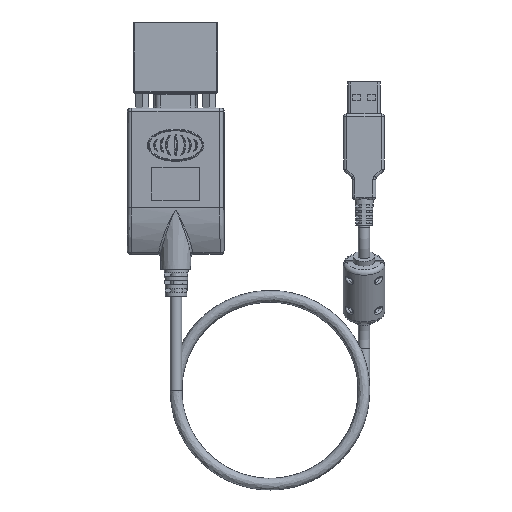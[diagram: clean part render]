
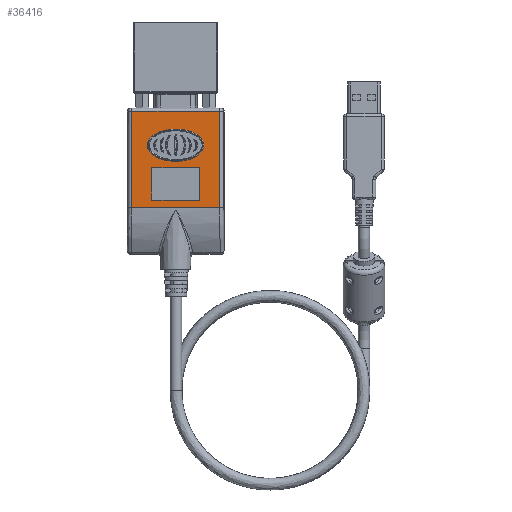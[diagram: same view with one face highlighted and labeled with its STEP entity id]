
A CAD part, front view. The second image highlights one B-rep face of the part: STEP entity #36416.
In plain terms, the highlighted planar face has unit normal (0, -0.999, -0.043).
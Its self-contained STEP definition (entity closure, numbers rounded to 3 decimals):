
#256=ELLIPSE('',#39180,10.5,6.);
#658=FACE_BOUND('',#5713,.T.);
#659=FACE_BOUND('',#5714,.T.);
#1204=PLANE('',#39182);
#3512=FACE_OUTER_BOUND('',#5712,.T.);
#5712=EDGE_LOOP('',(#27893,#27894,#27895,#27896));
#5713=EDGE_LOOP('',(#27897,#27898,#27899,#27900));
#5714=EDGE_LOOP('',(#27901));
#9671=LINE('',#64208,#12677);
#9675=LINE('',#64216,#12681);
#9678=LINE('',#64222,#12684);
#9681=LINE('',#64227,#12687);
#9783=LINE('',#67359,#12789);
#9784=LINE('',#67361,#12790);
#9785=LINE('',#67363,#12791);
#9786=LINE('',#67364,#12792);
#12677=VECTOR('',#44572,10.);
#12681=VECTOR('',#44578,10.);
#12684=VECTOR('',#44583,10.);
#12687=VECTOR('',#44588,10.);
#12789=VECTOR('',#45010,10.);
#12790=VECTOR('',#45011,10.);
#12791=VECTOR('',#45012,10.);
#12792=VECTOR('',#45013,10.);
#16034=VERTEX_POINT('',#64206);
#16035=VERTEX_POINT('',#64207);
#16038=VERTEX_POINT('',#64215);
#16040=VERTEX_POINT('',#64221);
#16222=VERTEX_POINT('',#66725);
#16231=VERTEX_POINT('',#67357);
#16232=VERTEX_POINT('',#67358);
#16233=VERTEX_POINT('',#67360);
#16234=VERTEX_POINT('',#67362);
#20176=EDGE_CURVE('',#16034,#16035,#9671,.T.);
#20180=EDGE_CURVE('',#16038,#16034,#9675,.T.);
#20183=EDGE_CURVE('',#16040,#16038,#9678,.T.);
#20186=EDGE_CURVE('',#16035,#16040,#9681,.T.);
#20481=EDGE_CURVE('',#16222,#16222,#256,.T.);
#20504=EDGE_CURVE('',#16231,#16232,#9783,.T.);
#20505=EDGE_CURVE('',#16233,#16231,#9784,.T.);
#20506=EDGE_CURVE('',#16234,#16233,#9785,.T.);
#20507=EDGE_CURVE('',#16232,#16234,#9786,.T.);
#27893=ORIENTED_EDGE('',*,*,#20504,.F.);
#27894=ORIENTED_EDGE('',*,*,#20505,.F.);
#27895=ORIENTED_EDGE('',*,*,#20506,.F.);
#27896=ORIENTED_EDGE('',*,*,#20507,.F.);
#27897=ORIENTED_EDGE('',*,*,#20176,.T.);
#27898=ORIENTED_EDGE('',*,*,#20186,.T.);
#27899=ORIENTED_EDGE('',*,*,#20183,.T.);
#27900=ORIENTED_EDGE('',*,*,#20180,.T.);
#27901=ORIENTED_EDGE('',*,*,#20481,.T.);
#36416=ADVANCED_FACE('',(#3512,#658,#659),#1204,.F.);
#39180=AXIS2_PLACEMENT_3D('',#66727,#45004,#45005);
#39182=AXIS2_PLACEMENT_3D('',#67356,#45008,#45009);
#44572=DIRECTION('',(0.,0.043,-0.999));
#44578=DIRECTION('',(1.,0.,0.));
#44583=DIRECTION('',(0.,-0.043,0.999));
#44588=DIRECTION('',(-1.,0.,0.));
#45004=DIRECTION('center_axis',(0.,0.999,
0.043));
#45005=DIRECTION('ref_axis',(-1.,0.,0.));
#45008=DIRECTION('center_axis',(0.,0.999,
0.043));
#45009=DIRECTION('ref_axis',(0.,0.043,-0.999));
#45010=DIRECTION('',(1.,0.,0.));
#45011=DIRECTION('',(0.002,-0.043,0.999));
#45012=DIRECTION('',(-1.,0.,0.));
#45013=DIRECTION('',(0.002,0.043,-0.999));
#64206=CARTESIAN_POINT('',(8.875,-7.141,-22.179));
#64207=CARTESIAN_POINT('',(8.875,-6.622,-34.168));
#64208=CARTESIAN_POINT('',(8.875,-7.62,-11.09));
#64215=CARTESIAN_POINT('',(-8.875,-7.141,-22.179));
#64216=CARTESIAN_POINT('',(-4.438,-7.141,-22.179));
#64221=CARTESIAN_POINT('',(-8.875,-6.622,-34.168));
#64222=CARTESIAN_POINT('',(-8.875,-7.361,-17.084));
#64227=CARTESIAN_POINT('',(4.437,-6.622,-34.168));
#66725=CARTESIAN_POINT('',(10.5,-7.506,-13.737));
#66727=CARTESIAN_POINT('Origin',(0.,-7.506,
-13.737));
#67356=CARTESIAN_POINT('Origin',(0.,-8.1,0.));
#67357=CARTESIAN_POINT('',(-16.367,-8.055,-1.043));
#67358=CARTESIAN_POINT('',(16.367,-8.055,-1.043));
#67359=CARTESIAN_POINT('',(0.,-8.055,-1.043));
#67360=CARTESIAN_POINT('',(-16.421,-6.5,-37.));
#67361=CARTESIAN_POINT('',(-16.365,-8.093,-0.164));
#67362=CARTESIAN_POINT('',(16.421,-6.5,-37.));
#67363=CARTESIAN_POINT('',(0.,-6.5,-37.));
#67364=CARTESIAN_POINT('',(16.365,-8.1,0.011));
